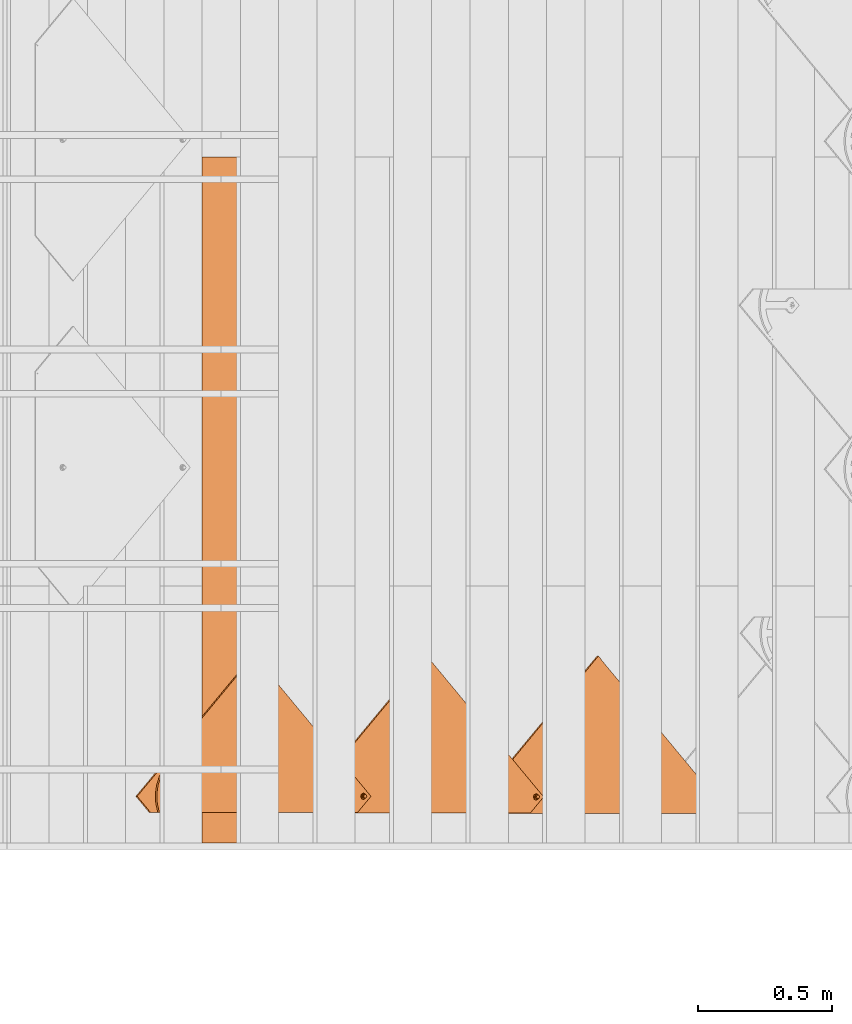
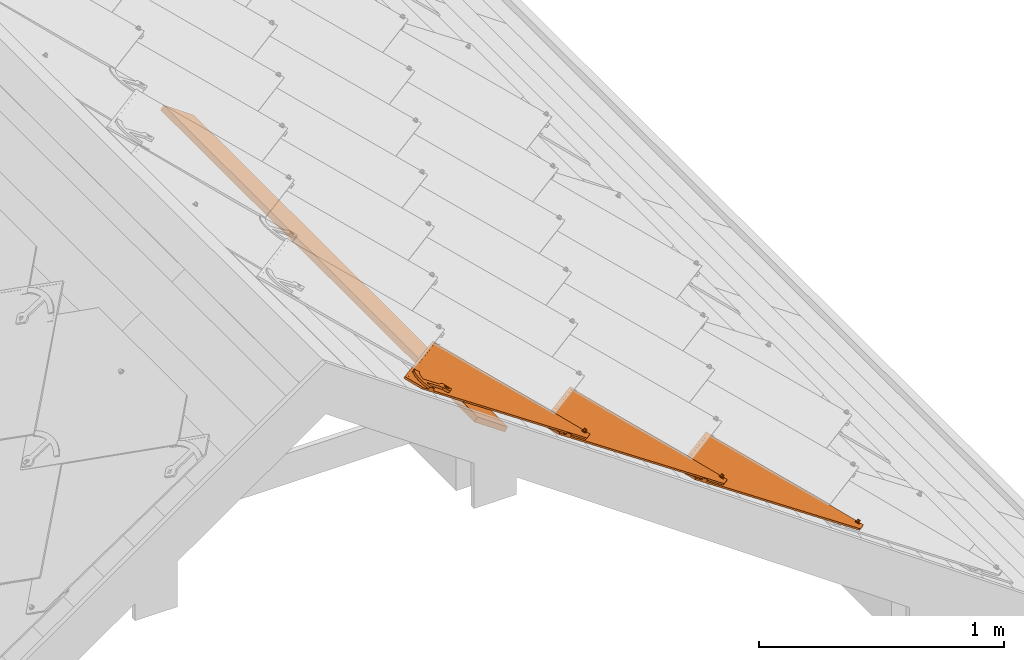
# One storey, part 17 of 151: 4 proxies, 1 element without a shape of its own.
"""IFC2X3 building model written with IfcOpenShell, lengths in millimetres."""

from ifc_helpers import new_model, entity, si_unit, converted_unit, derived_unit, direction, frame, frame_2d, origin, place, context, subcontext, project, spatial, rectangle, extrude, faceted_brep, source, transform, mapped, material, material_list, type_object, type_shapes, element, aggregate, save


model = new_model("IFC2X3")

# Units and contexts
model_context = context("Model", 3, precision=0.01, world=origin(), true_north=direction((6.12303176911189e-17, 1.0)))
body_context = subcontext(model_context, "Body", "Model", "MODEL_VIEW")
ifc_project = project(units=[si_unit("LENGTHUNIT", "METRE", prefix="MILLI"), si_unit("AREAUNIT", "SQUARE_METRE"), si_unit("VOLUMEUNIT", "CUBIC_METRE"), converted_unit("PLANEANGLEUNIT", "DEGREE", entity("IfcRatioMeasure", 0.0174532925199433), si_unit("PLANEANGLEUNIT", "RADIAN"), dimensions=[0, 0, 0, 0, 0, 0, 0]), si_unit("MASSUNIT", "GRAM", prefix="KILO"), derived_unit("MASSDENSITYUNIT", [(si_unit("MASSUNIT", "GRAM", prefix="KILO"), 1), (si_unit("LENGTHUNIT", "METRE"), -3)]), si_unit("TIMEUNIT", "SECOND"), si_unit("FREQUENCYUNIT", "HERTZ"), si_unit("THERMODYNAMICTEMPERATUREUNIT", "DEGREE_CELSIUS"), derived_unit("THERMALTRANSMITTANCEUNIT", [(si_unit("MASSUNIT", "GRAM", prefix="KILO"), 1), (si_unit("THERMODYNAMICTEMPERATUREUNIT", "KELVIN"), -1), (si_unit("TIMEUNIT", "SECOND"), -3)]), derived_unit("VOLUMETRICFLOWRATEUNIT", [(si_unit("LENGTHUNIT", "METRE"), 3), (si_unit("TIMEUNIT", "SECOND"), -1)]), si_unit("ELECTRICCURRENTUNIT", "AMPERE"), si_unit("ELECTRICVOLTAGEUNIT", "VOLT"), si_unit("POWERUNIT", "WATT"), si_unit("FORCEUNIT", "NEWTON", prefix="KILO"), si_unit("ILLUMINANCEUNIT", "LUX"), si_unit("LUMINOUSFLUXUNIT", "LUMEN"), si_unit("LUMINOUSINTENSITYUNIT", "CANDELA"), derived_unit("USERDEFINED", [(si_unit("MASSUNIT", "GRAM", prefix="KILO"), -1), (si_unit("LENGTHUNIT", "METRE"), -2), (si_unit("TIMEUNIT", "SECOND"), 3), (si_unit("LUMINOUSFLUXUNIT", "LUMEN"), 1)]), derived_unit("LINEARVELOCITYUNIT", [(si_unit("LENGTHUNIT", "METRE"), 1), (si_unit("TIMEUNIT", "SECOND"), -1)]), si_unit("PRESSUREUNIT", "PASCAL"), derived_unit("USERDEFINED", [(si_unit("LENGTHUNIT", "METRE"), -2), (si_unit("MASSUNIT", "GRAM", prefix="KILO"), 1), (si_unit("TIMEUNIT", "SECOND"), -2)])], contexts=[model_context])

# Site, building, storey
site_placement = place(None, origin())
site = spatial("IfcSite", under=ifc_project, at=site_placement, Name="Default", CompositionType="ELEMENT")
building_placement = place(site_placement, origin())
building = spatial("IfcBuilding", under=site, at=building_placement, CompositionType="ELEMENT")
storey_placement = place(building_placement, origin())
storey = spatial("IfcBuildingStorey", under=building, at=storey_placement, Name="Level 1", CompositionType="ELEMENT", Elevation=0.0)

# Assembly, proxy
assembly_placement = place(storey_placement, origin())
assembly = element("IfcElementAssembly", 1, at=assembly_placement, inside=storey, Name="Structural Framing Assembly:Roof Construction Assembly", ObjectType="Structural Framing Assembly:Roof Construction Assembly", AssemblyPlace="NOTDEFINED", PredefinedType="USERDEFINED")
ifc_material_1 = material(Name="Wood - Generic - Wood For Showcase")
building_element_proxy_type_1 = type_object("IfcBuildingElementProxyType", Name="Structural Framing 15", PredefinedType="NOTDEFINED", material=ifc_material_1)
shared_shape_1 = source(origin(), body_context, "Body", "SweptSolid", [
    extrude(rectangle(XDim=24.9999999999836, YDim=174.344679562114, at=frame_2d((3.73923114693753e-13, 6.3948846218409e-14), x_axis=(1.0, 0.0))), frame((1285.35601305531, 1437.09519417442, 2760.23940055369), z_axis=(0.0, 1.0, 0.0), x_axis=(0.573576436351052, 0.0, 0.819152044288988)), (0.0, 0.0, 1.0), 2558.4556079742),
])
type_shapes(building_element_proxy_type_1, [shared_shape_1])
proxy_1_placement = place(assembly_placement, frame((771.561874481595, -8140.0, -500.0)))
proxy_1 = element("IfcBuildingElementProxy", 2, at=proxy_1_placement, type_object=building_element_proxy_type_1, material=ifc_material_1, Name="Structural Framing 183:Structural Framing 15", ObjectType="Structural Framing 183:Structural Framing 15", context=body_context, shape_type="MappedRepresentation", body=[
    mapped(shared_shape_1, transform((0.0, 0.0, 0.0), scale=1.0)),
])
aggregate(assembly, [proxy_1])

# Proxies
ifc_material_2 = material(Name="Rubber - Sunstyle - Black")
ifc_material_3 = material(Name="Glass - Sunstyle - Tainted Black")
ifc_material_list_1 = material_list([ifc_material_2, ifc_material_3])
ifc_material_list_2 = material_list([ifc_material_2, ifc_material_3])
building_element_proxy_type_2 = type_object("IfcBuildingElementProxyType", Name="Shingle Left - Black", PredefinedType="NOTDEFINED", material=ifc_material_list_2)
shared_shape_2 = source(origin(), body_context, "Body", "Brep", [
    faceted_brep([(0.0, -484.792260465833, 4.00636906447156), (-5.77420283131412, -488.125530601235, 4.06219304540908), (-5.77420283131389, -487.757221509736, 26.0540623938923), (0.0, -484.423951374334, 25.9982384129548), (-5.77420283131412, -494.792070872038, 4.17384100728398), (-5.7742028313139, -494.42376178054, 26.1657103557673), (0.0, -498.12534100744, 4.22966498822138), (0.0, -497.757031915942, 26.2215343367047), (5.77420283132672, -494.792070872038, 4.17384100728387), (5.77420283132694, -494.42376178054, 26.1657103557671), (5.77420283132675, -488.125530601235, 4.06219304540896), (5.77420283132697, -487.757221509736, 26.0540623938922), (-8.60370416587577, -499.692989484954, 26.2539568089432), (0.0, -503.256260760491, 26.3136327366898), (-12.1674751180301, -491.090491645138, 26.1098863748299), (-8.60370416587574, -482.487993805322, 25.9658159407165), (0.0, -478.924722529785, 25.9061400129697), (8.60370416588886, -482.487993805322, 25.9658159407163), (12.1674751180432, -491.090491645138, 26.1098863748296), (8.60370416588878, -499.692989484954, 26.253956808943), (-11.324244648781, -488.795414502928, 28.4227283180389), (-9.75647455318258, -491.019476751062, 30.3502110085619), (0.0, -483.706401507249, 30.9829114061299), (0.0, -482.465903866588, 30.4025647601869), (0.0, -480.308353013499, 29.3931896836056), (0.0, -502.700216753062, 27.5886907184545), (0.0, -501.756640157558, 29.7523951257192), (0.0, -498.307264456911, 31.2274395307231), (0.0, -479.437758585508, 27.1991024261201), (-6.32324569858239, -494.657048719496, 31.1663074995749), (-6.32324569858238, -487.356617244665, 31.0440434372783), (11.3242446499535, -493.306834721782, 28.498283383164), (9.84888015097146, -492.093883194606, 30.2713428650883), (6.32324569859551, -487.356617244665, 31.0440434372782), (6.32324569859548, -494.657048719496, 31.1663074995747), (-6.32324569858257, -494.523020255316, 39.1691956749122), (0.0, -498.173235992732, 39.2303277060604), (0.0, -490.8728045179, 39.1080636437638), (-6.32324569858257, -487.222588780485, 39.0469316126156), (6.32324569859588, -494.523020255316, 39.1691956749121), (6.32324569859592, -487.222588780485, 39.0469316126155), (0.0, -483.572373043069, 38.9857995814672), (0.0, -491.458800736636, 4.11801702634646)], [[[0, 1, 2, 3]], [[1, 4, 5, 2]], [[4, 6, 7, 5]], [[6, 8, 9, 7]], [[8, 10, 11, 9]], [[10, 0, 3, 11]], [[12, 7, 13]], [[7, 12, 5]], [[14, 5, 12]], [[5, 14, 2]], [[15, 2, 14]], [[3, 2, 15]], [[15, 16, 3]], [[16, 17, 3]], [[11, 3, 17]], [[11, 17, 18]], [[9, 11, 18]], [[18, 19, 9]], [[7, 9, 19]], [[19, 13, 7]], [[20, 14, 12]], [[21, 22, 23, 24]], [[24, 20, 21]], [[25, 20, 12]], [[26, 27, 21]], [[15, 14, 20]], [[12, 13, 25]], [[20, 28, 15]], [[28, 20, 24]], [[21, 27, 29]], [[21, 29, 30]], [[26, 21, 20]], [[20, 25, 26]], [[15, 28, 16]], [[21, 30, 22]], [[31, 18, 17]], [[28, 31, 17]], [[32, 27, 26]], [[26, 31, 32]], [[26, 25, 31]], [[25, 19, 31]], [[17, 16, 28]], [[31, 19, 18]], [[24, 31, 28]], [[33, 34, 32]], [[23, 22, 33]], [[24, 32, 31]], [[27, 32, 34]], [[32, 23, 33]], [[19, 25, 13]], [[32, 24, 23]], [[35, 36, 37]], [[37, 38, 35]], [[36, 39, 37]], [[40, 37, 39]], [[37, 40, 41]], [[37, 41, 38]], [[42, 6, 4]], [[4, 1, 42]], [[1, 0, 42]], [[42, 8, 6]], [[0, 10, 42]], [[8, 42, 10]], [[22, 30, 38, 41]], [[30, 29, 35, 38]], [[29, 27, 36, 35]], [[27, 34, 39, 36]], [[34, 33, 40, 39]], [[33, 22, 41, 40]]]),
    faceted_brep([(0.0, 284.339364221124, 20.2838091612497), (0.0, 288.838732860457, 20.2084559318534), (-8.60370416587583, 287.902635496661, 20.224133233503), (8.60370416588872, 287.902635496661, 20.2241332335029), (6.64022859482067, 292.671933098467, 20.1442593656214), (12.1674751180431, 296.505133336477, 20.0800627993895), (6.64022859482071, 300.338333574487, 20.0158662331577), (8.6037041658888, 305.107631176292, 19.9359923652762), (0.0, 304.171533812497, 19.9516696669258), (0.0, 308.670902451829, 19.8763164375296), (-8.60370416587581, 305.107631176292, 19.9359923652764), (-6.64022859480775, 300.338333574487, 20.0158662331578), (-12.1674751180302, 296.505133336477, 20.0800627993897), (-6.64022859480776, 292.671933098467, 20.1442593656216), (-6.64022823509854, 300.070410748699, 4.01810959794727), (0.0, 303.90361077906, 3.95391303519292), (-6.64022823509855, 292.404010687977, 4.14650272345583), (0.0, 288.570810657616, 4.21069928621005), (6.64022823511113, 292.404010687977, 4.1465027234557), (6.64022823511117, 300.070410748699, 4.01810959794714), (-8.603704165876, 287.634712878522, 4.22637659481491), (0.0, 284.071441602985, 4.28605252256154), (-12.1674751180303, 296.237210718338, 4.08230616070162), (-8.60370416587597, 304.839708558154, 3.93823572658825), (0.0, 308.402979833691, 3.87855979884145), (8.60370416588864, 304.839708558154, 3.93823572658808), (12.1674751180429, 296.237210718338, 4.08230616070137), (8.60370416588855, 287.634712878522, 4.22637659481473)], [[[0, 1, 2]], [[1, 0, 3]], [[3, 4, 1]], [[4, 3, 5]], [[6, 4, 5]], [[5, 7, 6]], [[7, 8, 6]], [[8, 7, 9]], [[8, 9, 10]], [[10, 11, 8]], [[12, 11, 10]], [[2, 13, 12]], [[12, 13, 11]], [[13, 2, 1]], [[8, 11, 14, 15]], [[11, 13, 16, 14]], [[13, 1, 17, 16]], [[1, 4, 18, 17]], [[4, 6, 19, 18]], [[6, 8, 15, 19]], [[20, 17, 21]], [[17, 20, 16]], [[22, 16, 20]], [[14, 16, 22]], [[23, 14, 22]], [[15, 14, 23]], [[23, 24, 15]], [[24, 25, 15]], [[19, 15, 25]], [[19, 25, 26]], [[26, 18, 19]], [[26, 27, 18]], [[17, 18, 27]], [[27, 21, 17]], [[24, 23, 10, 9]], [[10, 23, 22, 12]], [[20, 21, 0, 2]], [[20, 2, 12, 22]], [[21, 27, 3, 0]], [[3, 27, 26, 5]], [[25, 24, 9, 7]], [[25, 7, 5, 26]]]),
    faceted_brep([(518.309865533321, -8.21171787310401, 16.4411500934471), (526.794551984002, 0.272968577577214, 16.299052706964), (526.794551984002, 0.298086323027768, 17.798842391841), (518.309865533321, -8.18660012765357, 17.9409397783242), (0.0, 509.952813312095, 7.76318349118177), (-51.6190674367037, 458.348219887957, 8.62743202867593), (-60.1037538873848, 466.832906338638, 8.48533464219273), (0.0, 526.919807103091, 7.47902856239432), (0.0, 526.944924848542, 8.97881824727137), (-60.1037538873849, 466.858024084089, 9.98512432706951), (-51.6190674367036, 458.373337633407, 10.1272217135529), (0.0, 509.977931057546, 9.26297317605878)], [[[0, 1, 2, 3]], [[1, 0, 4, 5, 6, 7]], [[2, 1, 7, 8]], [[3, 2, 8, 9, 10, 11]], [[0, 3, 11, 4]], [[5, 10, 9, 6]], [[8, 7, 6, 9]], [[4, 11, 10, 5]]]),
    faceted_brep([(3.08877637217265, 308.328619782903, 11.1398870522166), (0.0, 526.91980710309, 7.47902856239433), (-60.1037538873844, 466.832906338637, 8.48533464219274), (5.98294783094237, 307.129982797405, 11.1599612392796), (-0.0170521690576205, 308.737452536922, 11.133040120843), (8.46822920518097, 305.223226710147, 11.1918946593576), (10.3752526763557, 302.738293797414, 11.2335111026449), (11.5740577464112, 299.844528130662, 11.2819744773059), (526.794551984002, 0.272968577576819, 16.299052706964), (11.9829478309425, 296.739135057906, 11.3339820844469), (11.5740577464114, 293.63374198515, 11.3859896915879), (10.3752526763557, 290.739976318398, 11.4344530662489), (8.46822920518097, 288.255043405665, 11.4760695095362), (5.9829478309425, 286.348287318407, 11.5080029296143), (3.08877637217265, 285.149650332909, 11.5280771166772), (2.03352718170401, -483.329519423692, 24.3981910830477), (-60.1037538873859, -466.286969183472, 24.112770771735), (-0.0170521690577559, 284.74081757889, 11.5349240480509), (-3.12288071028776, 285.149650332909, 11.5280771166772), (-6.01705216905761, 286.348287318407, 11.5080029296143), (-8.50233354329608, 288.255043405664, 11.4760695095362), (-10.409357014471, 290.739976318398, 11.4344530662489), (-11.6081620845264, 293.63374198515, 11.3859896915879), (-12.0170521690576, 296.739135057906, 11.3339820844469), (-11.6081620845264, 299.844528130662, 11.2819744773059), (-10.4093570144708, 302.738293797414, 11.2335111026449), (-8.50233354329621, 305.223226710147, 11.1918946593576), (-6.01705216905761, 307.129982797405, 11.1599612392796), (-3.12288071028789, 308.328619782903, 11.1398870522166), (-0.0370251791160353, -483.056964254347, 24.3936264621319), (-2.10757753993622, -483.329519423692, 24.3981910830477), (-4.03702517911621, -484.128610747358, 24.411573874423), (-5.69387942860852, -485.399781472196, 24.4328628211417), (-6.96522840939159, -487.056403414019, 24.4606071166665), (-7.76443178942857, -488.985580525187, 24.4929160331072), (-8.03702517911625, -491.055842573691, 24.5275877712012), (-7.76443178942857, -493.126104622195, 24.5622595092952), (-6.96522840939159, -495.055281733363, 24.5945684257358), (0.0, -526.373869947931, 25.1190768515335), (-5.69387942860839, -496.711903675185, 24.6223127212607), (-4.03702517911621, -497.983074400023, 24.6436016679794), (-2.10757753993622, -498.782165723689, 24.6569844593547), (-0.0370251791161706, -499.054720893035, 24.6615490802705), (2.03352718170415, -498.782165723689, 24.6569844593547), (3.96297482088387, -497.983074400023, 24.6436016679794), (5.61982907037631, -496.711903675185, 24.6223127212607), (6.89117805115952, -495.055281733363, 24.5945684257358), (7.6903814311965, -493.126104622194, 24.5622595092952), (3.96297482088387, -484.128610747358, 24.411573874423), (5.61982907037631, -485.399781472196, 24.4328628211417), (6.89117805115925, -487.056403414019, 24.4606071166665), (7.6903814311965, -488.985580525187, 24.4929160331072), (7.96297482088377, -491.055842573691, 24.5275877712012), (-60.1037538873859, -466.412557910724, 16.6138223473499), (-6.96522840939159, -487.181992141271, 16.9616586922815), (-7.7644317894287, -489.111169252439, 16.9939676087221), (-5.69387942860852, -485.525370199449, 16.9339143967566), (-8.03702517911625, -491.181431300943, 17.0286393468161), (-7.76443178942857, -493.251693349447, 17.0633110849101), (-6.96522840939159, -495.180870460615, 17.0956200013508), (0.0, -526.499458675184, 17.6201284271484), (-4.03702517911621, -484.254199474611, 16.9126254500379), (-2.10757753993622, -483.455108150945, 16.8992426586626), (-0.0370251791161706, -483.182552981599, 16.8946780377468), (2.03352718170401, -483.455108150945, 16.8992426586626), (3.08877637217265, 285.024061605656, 4.02912869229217), (-0.0170521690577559, 284.615228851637, 4.03597562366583), (-3.12288071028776, 285.024061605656, 4.02912869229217), (-6.01705216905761, 286.222698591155, 4.00905450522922), (-8.50233354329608, 288.129454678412, 3.97712108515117), (-10.409357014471, 290.614387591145, 3.93550464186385), (-11.6081620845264, 293.508153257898, 3.88704126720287), (-60.1037538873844, 466.707317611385, 0.986386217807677), (-12.0170521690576, 296.613546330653, 3.83503366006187), (-11.6081620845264, 299.718939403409, 3.78302605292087), (-10.4093570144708, 302.612705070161, 3.73456267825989), (-8.50233354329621, 305.097637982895, 3.69294623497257), (-6.01705216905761, 307.004394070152, 3.66101281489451), (-3.12288071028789, 308.203031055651, 3.64093862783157), (-0.0170521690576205, 308.61186380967, 3.63409169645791), (3.08877637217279, 308.203031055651, 3.64093862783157), (0.0, 526.794218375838, -0.0199198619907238), (5.98294783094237, 307.004394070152, 3.66101281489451), (8.46822920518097, 305.097637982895, 3.69294623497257), (10.3752526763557, 302.612705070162, 3.73456267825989), (11.5740577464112, 299.718939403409, 3.78302605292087), (526.794551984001, 0.147379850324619, 8.8001042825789), (3.96297482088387, -484.254199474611, 16.9126254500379), (5.61982907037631, -485.525370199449, 16.9339143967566), (7.6903814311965, -493.251693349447, 17.0633110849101), (7.96297482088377, -491.181431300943, 17.0286393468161), (7.6903814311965, -489.111169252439, 16.9939676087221), (6.89117805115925, -487.181992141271, 16.9616586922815), (5.9829478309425, 286.222698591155, 4.00905450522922), (8.46822920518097, 288.129454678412, 3.97712108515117), (11.9829478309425, 296.613546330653, 3.83503366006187), (11.5740577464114, 293.508153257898, 3.88704126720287), (10.3752526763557, 290.614387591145, 3.93550464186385), (-5.69387942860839, -496.837492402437, 17.1233642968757), (-4.03702517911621, -498.108663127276, 17.1446532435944), (-2.10757753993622, -498.907754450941, 17.1580360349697), (-0.0370251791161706, -499.180309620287, 17.1626006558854), (2.03352718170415, -498.907754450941, 17.1580360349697), (3.96297482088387, -498.108663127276, 17.1446532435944), (5.61982907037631, -496.837492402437, 17.1233642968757), (6.89117805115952, -495.180870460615, 17.0956200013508)], [[[0, 1, 2]], [[0, 3, 1]], [[4, 0, 2]], [[1, 3, 5]], [[6, 1, 5]], [[7, 1, 6]], [[7, 8, 1]], [[9, 8, 7]], [[8, 9, 10]], [[8, 10, 11]], [[11, 12, 8]], [[12, 13, 8]], [[13, 14, 8]], [[14, 15, 8]], [[14, 16, 15]], [[16, 14, 17]], [[16, 17, 18]], [[16, 18, 19]], [[20, 16, 19]], [[20, 21, 16]], [[21, 22, 16]], [[23, 2, 22]], [[2, 16, 22]], [[23, 24, 2]], [[25, 2, 24]], [[25, 26, 2]], [[26, 27, 2]], [[28, 2, 27]], [[4, 2, 28]], [[16, 29, 15]], [[29, 16, 30]], [[30, 16, 31]], [[16, 32, 31]], [[32, 16, 33]], [[33, 16, 34]], [[35, 34, 16]], [[35, 16, 36]], [[37, 36, 16]], [[16, 38, 37]], [[39, 37, 38]], [[40, 39, 38]], [[41, 40, 38]], [[38, 42, 41]], [[42, 38, 43]], [[44, 43, 38]], [[44, 38, 45]], [[46, 45, 38]], [[47, 46, 38]], [[47, 38, 8]], [[48, 8, 15]], [[48, 49, 8]], [[50, 8, 49]], [[51, 8, 50]], [[52, 47, 8]], [[52, 8, 51]], [[53, 54, 55]], [[54, 53, 56]], [[53, 55, 57]], [[57, 58, 53]], [[58, 59, 53]], [[53, 59, 60]], [[61, 56, 53]], [[62, 61, 53]], [[62, 53, 63]], [[64, 63, 53]], [[53, 65, 64]], [[65, 53, 66]], [[66, 53, 67]], [[67, 53, 68]], [[69, 68, 53]], [[70, 69, 53]], [[71, 70, 53]], [[71, 53, 72]], [[73, 71, 72]], [[74, 73, 72]], [[75, 74, 72]], [[76, 75, 72]], [[72, 77, 76]], [[78, 77, 72]], [[79, 78, 72]], [[79, 72, 80]], [[80, 72, 81]], [[82, 80, 81]], [[81, 83, 82]], [[83, 81, 84]], [[84, 81, 85]], [[86, 85, 81]], [[64, 86, 87]], [[88, 87, 86]], [[60, 89, 86]], [[90, 86, 89]], [[90, 91, 86]], [[91, 92, 86]], [[88, 86, 92]], [[65, 86, 64]], [[65, 93, 86]], [[93, 94, 86]], [[86, 95, 85]], [[95, 86, 96]], [[97, 96, 86]], [[97, 86, 94]], [[98, 60, 59]], [[98, 99, 60]], [[99, 100, 60]], [[101, 60, 100]], [[60, 101, 102]], [[60, 102, 103]], [[103, 104, 60]], [[104, 105, 60]], [[105, 89, 60]], [[2, 1, 81, 72]], [[38, 16, 53, 60]], [[8, 38, 60, 86]], [[1, 8, 86, 81]], [[35, 57, 55, 34]], [[34, 55, 54, 33]], [[31, 32, 56, 61]], [[56, 32, 33, 54]], [[30, 31, 61, 62]], [[30, 62, 63, 29]], [[29, 63, 64, 15]], [[15, 64, 87, 48]], [[50, 49, 88, 92]], [[88, 49, 48, 87]], [[51, 50, 92, 91]], [[51, 91, 90, 52]], [[52, 90, 89, 47]], [[47, 89, 105, 46]], [[44, 45, 104, 103]], [[104, 45, 46, 105]], [[43, 44, 103, 102]], [[43, 102, 101, 42]], [[42, 101, 100, 41]], [[41, 100, 99, 40]], [[37, 39, 98, 59]], [[98, 39, 40, 99]], [[36, 37, 59, 58]], [[36, 58, 57, 35]], [[23, 73, 74, 24]], [[24, 74, 75, 25]], [[27, 26, 76, 77]], [[76, 26, 25, 75]], [[28, 27, 77, 78]], [[28, 78, 79, 4]], [[4, 79, 80, 0]], [[0, 80, 82, 3]], [[6, 5, 83, 84]], [[83, 5, 3, 82]], [[7, 6, 84, 85]], [[7, 85, 95, 9]], [[9, 95, 96, 10]], [[10, 96, 97, 11]], [[13, 12, 94, 93]], [[94, 12, 11, 97]], [[14, 13, 93, 65]], [[14, 65, 66, 17]], [[17, 66, 67, 18]], [[18, 67, 68, 19]], [[21, 20, 69, 70]], [[69, 20, 19, 68]], [[22, 21, 70, 71]], [[22, 71, 73, 23]], [[16, 2, 72, 53]]]),
    faceted_brep([(-60.2957264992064, 433.002673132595, 19.0533091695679), (-60.2957264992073, 406.276440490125, 19.5009070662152), (-37.4519584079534, 414.732964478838, 19.3592813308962), (-27.2461400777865, 442.315205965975, 18.8973474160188), (-13.4919726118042, 419.124350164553, 19.2857365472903), (7.02526451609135, 444.434715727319, 18.8618509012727), (13.1080273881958, 419.12435016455, 19.2857365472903), (13.1080273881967, 322.716549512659, 20.9003273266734), (-13.4919726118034, 322.716549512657, 20.9003273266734), (-0.191972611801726, 308.510747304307, 21.1382391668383), (-3.29780115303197, 308.101914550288, 21.145086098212), (-6.19197261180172, 306.90327756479, 21.1651602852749), (-18.8960787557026, 319.178501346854, 20.9595808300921), (-8.67725398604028, 304.996521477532, 21.197093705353), (-23.3966230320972, 314.545495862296, 21.0371721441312), (-10.584277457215, 302.511588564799, 21.2387101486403), (-26.776192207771, 309.041345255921, 21.1293529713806), (-11.7830825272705, 299.617822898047, 21.2871735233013), (-28.8715253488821, 302.931945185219, 21.231670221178), (-12.1919726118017, 296.512429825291, 21.3391811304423), (-29.5814006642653, 296.512429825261, 21.3391811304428), (-11.7830825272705, 293.407036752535, 21.3911887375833), (-10.5842774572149, 290.513271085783, 21.4396521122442), (-8.67725398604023, 288.028338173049, 21.4812685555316), (-0.191972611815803, 267.127122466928, 21.8313119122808), (-6.19197261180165, 286.121582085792, 21.5132019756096), (-3.2978011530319, 284.922945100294, 21.5332761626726), (-0.19197261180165, 284.514112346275, 21.5401230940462), (2.9138559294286, 284.922945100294, 21.5332761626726), (5.80802738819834, 286.121582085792, 21.5132019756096), (8.29330876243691, 288.028338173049, 21.4812685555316), (29.197455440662, 296.512429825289, 21.3391811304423), (10.2003322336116, 290.513271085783, 21.4396521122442), (11.3991373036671, 293.407036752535, 21.3911887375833), (11.8080273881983, 296.512429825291, 21.3391811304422), (28.4875801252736, 302.931945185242, 21.2316702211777), (11.3991373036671, 299.617822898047, 21.2871735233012), (26.3922469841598, 309.041345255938, 21.1293529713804), (10.2003322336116, 302.511588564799, 21.2387101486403), (23.0126778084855, 314.545495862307, 21.037172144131), (8.29330876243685, 304.996521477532, 21.197093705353), (18.5121335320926, 319.178501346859, 20.959580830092), (5.80802738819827, 306.90327756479, 21.1651602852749), (2.91385592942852, 308.101914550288, 21.145086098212), (40.9707248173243, 439.265481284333, 18.9484227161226), (38.5777701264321, 414.309469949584, 19.3663738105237), (73.0571986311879, 427.0409551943, 19.1531531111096), (62.7323605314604, 404.905836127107, 19.523861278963), (84.7524233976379, 391.232440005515, 19.7528566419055), (101.835599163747, 408.313220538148, 19.4667960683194), (-10.5842774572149, 290.345819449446, 11.4410542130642), (-29.5814006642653, 296.344978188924, 11.3405832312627), (-11.7830825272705, 293.239585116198, 11.3925908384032), (-8.67725398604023, 287.860886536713, 11.4826706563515), (-0.191972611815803, 266.959670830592, 11.8327140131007), (-6.19197261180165, 285.954130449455, 11.5146040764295), (-3.2978011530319, 284.755493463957, 11.5346782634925), (-0.19197261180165, 284.346660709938, 11.5415251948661), (2.9138559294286, 284.755493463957, 11.5346782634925), (5.80802738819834, 285.954130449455, 11.5146040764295), (8.29330876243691, 287.860886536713, 11.4826706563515), (29.197455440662, 296.344978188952, 11.3405832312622), (10.2003322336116, 290.345819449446, 11.4410542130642), (11.3991373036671, 293.239585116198, 11.3925908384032), (11.8080273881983, 296.344978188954, 11.3405832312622), (28.4875801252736, 302.764493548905, 11.2330723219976), (11.3991373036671, 299.45037126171, 11.2885756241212), (26.3922469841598, 308.873893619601, 11.1307550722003), (10.2003322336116, 302.344136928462, 11.2401122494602), (23.0126778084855, 314.378044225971, 11.038574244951), (8.29330876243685, 304.829069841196, 11.1984958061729), (18.5121335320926, 319.011049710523, 10.960982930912), (5.80802738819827, 306.735825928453, 11.1665623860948), (13.1080273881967, 322.549097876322, 10.9017294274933), (2.91385592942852, 307.934462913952, 11.1464881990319), (-0.191972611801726, 308.34329566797, 11.1396412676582), (-13.4919726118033, 322.54909787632, 10.9017294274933), (-3.29780115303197, 307.934462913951, 11.1464881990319), (-6.19197261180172, 306.735825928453, 11.1665623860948), (-18.8960787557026, 319.011049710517, 10.9609829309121), (-8.67725398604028, 304.829069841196, 11.1984958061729), (-23.3966230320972, 314.37804422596, 11.0385742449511), (-10.584277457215, 302.344136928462, 11.2401122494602), (-26.776192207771, 308.873893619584, 11.1307550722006), (-11.7830825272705, 299.45037126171, 11.2885756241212), (-28.8715253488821, 302.764493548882, 11.233072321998), (-12.1919726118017, 296.344978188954, 11.3405832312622), (-13.4919726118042, 418.956898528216, 9.28713864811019), (13.1080273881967, 418.956898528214, 9.28713864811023), (7.02526451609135, 444.267264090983, 8.86325300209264), (-27.2461400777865, 442.147754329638, 8.89874951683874), (-37.4519584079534, 414.565512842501, 9.36068343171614), (-60.2957264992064, 432.835221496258, 9.05471127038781), (-60.2957264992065, 406.108988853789, 9.5023091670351), (40.9707248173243, 439.098029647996, 8.94982481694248), (38.5777701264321, 414.142018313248, 9.36777591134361), (73.0571986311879, 426.873503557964, 9.15455521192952), (62.7323605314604, 404.738384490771, 9.5252633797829), (84.9699227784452, 391.282457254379, 9.75061668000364), (101.363550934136, 407.672574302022, 9.47612300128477), (101.835599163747, 408.145768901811, 9.46819816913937), (107.666988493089, 402.274283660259, 9.56653093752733), (113.684870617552, 396.559480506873, 9.66223967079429), (108.027097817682, 368.228515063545, 10.1367128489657), (125.024248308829, 385.223282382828, 9.85209278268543), (84.7524233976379, 391.064988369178, 9.75425874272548), (125.024248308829, 385.265145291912, 12.3517422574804), (113.684870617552, 396.601343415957, 12.1618891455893), (107.666988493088, 402.316146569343, 12.0661804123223), (101.362944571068, 407.715043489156, 11.975762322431), (84.9693798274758, 391.324863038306, 12.2502570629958), (108.027097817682, 368.270377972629, 12.6363623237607)], [[[0, 1, 2]], [[0, 2, 3]], [[2, 4, 3]], [[3, 4, 5]], [[5, 4, 6]], [[7, 6, 4]], [[7, 4, 8]], [[9, 7, 8]], [[9, 8, 10]], [[10, 8, 11]], [[12, 11, 8]], [[11, 12, 13]], [[14, 13, 12]], [[13, 14, 15]], [[15, 14, 16]], [[17, 15, 16]], [[18, 17, 16]], [[18, 19, 17]], [[19, 18, 20]], [[20, 21, 19]], [[20, 22, 21]], [[22, 20, 23]], [[23, 20, 24]], [[24, 25, 23]], [[26, 25, 24]], [[24, 27, 26]], [[28, 27, 24]], [[28, 24, 29]], [[30, 29, 24]], [[30, 24, 31]], [[31, 32, 30]], [[33, 32, 31]], [[31, 34, 33]], [[35, 34, 31]], [[34, 35, 36]], [[36, 35, 37]], [[36, 37, 38]], [[38, 37, 39]], [[39, 40, 38]], [[39, 41, 40]], [[7, 42, 41]], [[40, 41, 42]], [[42, 7, 43]], [[43, 7, 9]], [[44, 5, 6]], [[44, 6, 45]], [[45, 46, 44]], [[46, 45, 47]], [[47, 48, 46]], [[49, 46, 48]], [[50, 51, 52]], [[51, 50, 53]], [[54, 51, 53]], [[53, 55, 54]], [[56, 54, 55]], [[57, 54, 56]], [[57, 58, 54]], [[58, 59, 54]], [[60, 54, 59]], [[60, 61, 54]], [[60, 62, 61]], [[62, 63, 61]], [[63, 64, 61]], [[64, 65, 61]], [[65, 64, 66]], [[66, 67, 65]], [[68, 67, 66]], [[67, 68, 69]], [[69, 68, 70]], [[71, 69, 70]], [[71, 70, 72]], [[72, 73, 71]], [[72, 74, 73]], [[75, 73, 74]], [[76, 73, 75]], [[77, 76, 75]], [[76, 77, 78]], [[79, 76, 78]], [[78, 80, 79]], [[81, 79, 80]], [[81, 80, 82]], [[81, 82, 83]], [[82, 84, 83]], [[84, 85, 83]], [[86, 85, 84]], [[52, 51, 86]], [[85, 86, 51]], [[73, 76, 87]], [[88, 73, 87]], [[88, 87, 89]], [[90, 89, 87]], [[87, 91, 90]], [[91, 92, 90]], [[93, 92, 91]], [[88, 89, 94]], [[88, 94, 95]], [[96, 95, 94]], [[96, 97, 95]], [[98, 97, 96]], [[96, 99, 98]], [[96, 100, 99]], [[98, 99, 101]], [[102, 98, 101]], [[98, 102, 103]], [[104, 103, 102]], [[105, 97, 98]], [[8, 4, 87, 76]], [[12, 8, 76, 79]], [[14, 12, 79, 81]], [[81, 83, 16, 14]], [[18, 16, 83, 85]], [[20, 18, 85, 51]], [[24, 20, 51, 54]], [[31, 24, 54, 61]], [[35, 31, 61, 65]], [[37, 35, 65, 67]], [[67, 69, 39, 37]], [[41, 39, 69, 71]], [[7, 41, 71, 73]], [[6, 7, 73, 88]], [[46, 49, 100, 96]], [[44, 46, 96, 94]], [[94, 89, 5, 44]], [[3, 5, 89, 90]], [[3, 90, 92, 0]], [[19, 86, 84, 17]], [[17, 84, 82, 15]], [[11, 13, 80, 78]], [[82, 80, 13, 15]], [[10, 11, 78, 77]], [[75, 9, 10, 77]], [[43, 74, 72, 42]], [[42, 72, 70, 40]], [[36, 38, 68, 66]], [[70, 68, 38, 40]], [[34, 36, 66, 64]], [[43, 9, 75, 74]], [[34, 64, 63, 33]], [[33, 63, 62, 32]], [[29, 30, 60, 59]], [[62, 60, 30, 32]], [[28, 29, 59, 58]], [[57, 27, 28, 58]], [[26, 56, 55, 25]], [[25, 55, 53, 23]], [[21, 22, 50, 52]], [[53, 50, 22, 23]], [[19, 21, 52, 86]], [[26, 27, 57, 56]], [[106, 107, 108, 109, 110, 111]], [[107, 106, 104, 102]], [[106, 111, 103, 104]], [[107, 102, 101, 108]], [[101, 99, 109]], [[101, 109, 108]], [[111, 110, 98, 103]], [[48, 110, 109]], [[110, 48, 105]], [[49, 48, 109, 100]], [[105, 98, 110]], [[99, 100, 109]], [[93, 91, 2, 1]], [[87, 4, 2, 91]], [[88, 95, 45, 6]], [[95, 97, 47, 45]], [[97, 105, 48, 47]], [[1, 0, 92, 93]]]),
])
type_shapes(building_element_proxy_type_2, [shared_shape_2])
proxy_2_placement = place(storey_placement, frame((2177.11549681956, -6529.28084291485, 2191.33581081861), z_axis=(0.573576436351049, 0.0, 0.81915204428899), x_axis=(0.0, 1.0, 0.0)))
element("IfcBuildingElementProxy", 3, at=proxy_2_placement, inside=storey, type_object=building_element_proxy_type_2, material=ifc_material_list_1, Name="Roofing_Panels_SunStyle_Tile_Shingle-Left:Shingle Left - Black", ObjectType="Roofing_Panels_SunStyle_Tile_Shingle-Left:Shingle Left - Black", context=body_context, shape_type="MappedRepresentation", body=[
    mapped(shared_shape_2, transform((0.0, 0.0, 0.0), scale=1.0)),
])
ifc_material_list_3 = material_list([ifc_material_2, ifc_material_3])
proxy_3_placement = place(storey_placement, frame((2821.48053493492, -6531.4816679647, 1740.14655377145), z_axis=(0.573576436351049, 0.0, 0.81915204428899), x_axis=(0.0, 1.0, 0.0)))
element("IfcBuildingElementProxy", 4, at=proxy_3_placement, inside=storey, type_object=building_element_proxy_type_2, material=ifc_material_list_3, Name="Roofing_Panels_SunStyle_Tile_Shingle-Left:Shingle Left - Black", ObjectType="Roofing_Panels_SunStyle_Tile_Shingle-Left:Shingle Left - Black", context=body_context, shape_type="MappedRepresentation", body=[
    mapped(shared_shape_2, transform((0.0, 0.0, 0.0), scale=1.0)),
])
ifc_material_list_4 = material_list([ifc_material_2, ifc_material_3])
proxy_4_placement = place(storey_placement, frame((3461.39048717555, -6532.5820990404, 1292.07678143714), z_axis=(0.573576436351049, 0.0, 0.81915204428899), x_axis=(0.0, 1.0, 0.0)))
element("IfcBuildingElementProxy", 5, at=proxy_4_placement, inside=storey, type_object=building_element_proxy_type_2, material=ifc_material_list_4, Name="Roofing_Panels_SunStyle_Tile_Shingle-Left:Shingle Left - Black", ObjectType="Roofing_Panels_SunStyle_Tile_Shingle-Left:Shingle Left - Black", context=body_context, shape_type="MappedRepresentation", body=[
    mapped(shared_shape_2, transform((0.0, 0.0, 0.0), scale=1.0)),
])

save(model, "model.ifc")
